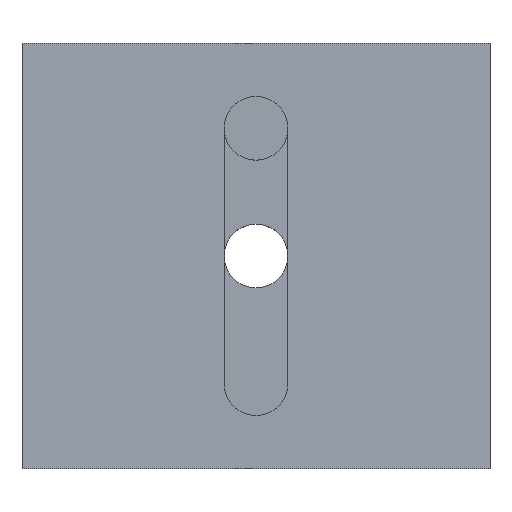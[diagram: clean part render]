
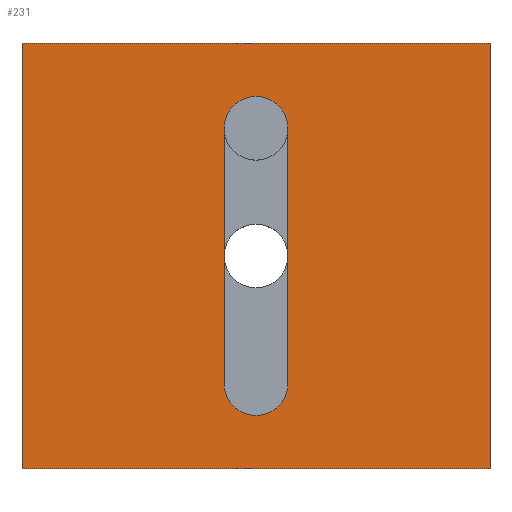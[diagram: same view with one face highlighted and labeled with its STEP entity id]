
A CAD part, top view. The second image highlights one B-rep face of the part: STEP entity #231.
In plain terms, the highlighted planar face has unit normal (0, 0, 1).
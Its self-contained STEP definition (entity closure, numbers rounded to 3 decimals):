
#30 = EDGE_CURVE ( 'NONE', #520, #630, #127, .T. ) ;
#35 = EDGE_CURVE ( 'NONE', #579, #520, #573, .T. ) ;
#38 = EDGE_CURVE ( 'NONE', #358, #531, #330, .T. ) ;
#48 = EDGE_CURVE ( 'NONE', #487, #358, #440, .T. ) ;
#52 = EDGE_CURVE ( 'NONE', #466, #487, #637, .T. ) ;
#59 = EDGE_CURVE ( 'NONE', #438, #579, #137, .T. ) ;
#61 = EDGE_CURVE ( 'NONE', #630, #438, #403, .T. ) ;
#69 = EDGE_CURVE ( 'NONE', #531, #466, #492, .T. ) ;
#84 = ORIENTED_EDGE ( 'NONE', *, *, #35, .F. ) ;
#92 = ORIENTED_EDGE ( 'NONE', *, *, #69, .T. ) ;
#103 = VECTOR ( 'NONE', #363, 1000. ) ;
#117 = AXIS2_PLACEMENT_3D ( 'NONE', #423, #657, #619 ) ;
#123 = AXIS2_PLACEMENT_3D ( 'NONE', #469, #321, #635 ) ;
#127 = CIRCLE ( 'NONE', #117, 7.5 ) ;
#129 = VECTOR ( 'NONE', #679, 1000. ) ;
#136 = VECTOR ( 'NONE', #629, 1000. ) ;
#137 = CIRCLE ( 'NONE', #123, 7.5 ) ;
#143 = VECTOR ( 'NONE', #488, 1000. ) ;
#155 = AXIS2_PLACEMENT_3D ( 'NONE', #468, #357, #568 ) ;
#165 = VECTOR ( 'NONE', #547, 1000. ) ;
#185 = VECTOR ( 'NONE', #540, 1000. ) ;
#231 = ADVANCED_FACE ( 'NONE', ( #434, #355 ), #443, .F. ) ;
#253 = ORIENTED_EDGE ( 'NONE', *, *, #30, .F. ) ;
#282 = ORIENTED_EDGE ( 'NONE', *, *, #38, .T. ) ;
#287 = ORIENTED_EDGE ( 'NONE', *, *, #59, .F. ) ;
#291 = ORIENTED_EDGE ( 'NONE', *, *, #61, .F. ) ;
#293 = ORIENTED_EDGE ( 'NONE', *, *, #48, .T. ) ;
#299 = EDGE_LOOP ( 'NONE', ( #282, #92, #505, #293 ) ) ;
#321 = DIRECTION ( 'NONE',  ( 0., 0., 1. ) ) ;
#328 = CARTESIAN_POINT ( 'NONE',  ( 0., 0., 8. ) ) ;
#330 = LINE ( 'NONE', #328, #165 ) ;
#350 = CARTESIAN_POINT ( 'NONE',  ( 110., 0., 8. ) ) ;
#355 = FACE_BOUND ( 'NONE', #523, .T. ) ;
#357 = DIRECTION ( 'NONE',  ( 0., 0., -1. ) ) ;
#358 = VERTEX_POINT ( 'NONE', #631 ) ;
#363 = DIRECTION ( 'NONE',  ( 0., 1., 0. ) ) ;
#403 = LINE ( 'NONE', #670, #136 ) ;
#423 = CARTESIAN_POINT ( 'NONE',  ( 55., 20., 8. ) ) ;
#434 = FACE_OUTER_BOUND ( 'NONE', #299, .T. ) ;
#438 = VERTEX_POINT ( 'NONE', #602 ) ;
#440 = LINE ( 'NONE', #651, #129 ) ;
#443 = PLANE ( 'NONE',  #155 ) ;
#466 = VERTEX_POINT ( 'NONE', #564 ) ;
#468 = CARTESIAN_POINT ( 'NONE',  ( 0., 100., 8. ) ) ;
#469 = CARTESIAN_POINT ( 'NONE',  ( 55., 80., 8. ) ) ;
#473 = CARTESIAN_POINT ( 'NONE',  ( 110., 100., 8. ) ) ;
#487 = VERTEX_POINT ( 'NONE', #473 ) ;
#488 = DIRECTION ( 'NONE',  ( 1., 0., 0. ) ) ;
#492 = LINE ( 'NONE', #658, #143 ) ;
#493 = CARTESIAN_POINT ( 'NONE',  ( 47.5, 20., 8. ) ) ;
#504 = CARTESIAN_POINT ( 'NONE',  ( 47.5, 80., 8. ) ) ;
#505 = ORIENTED_EDGE ( 'NONE', *, *, #52, .T. ) ;
#508 = CARTESIAN_POINT ( 'NONE',  ( 0., 0., 8. ) ) ;
#520 = VERTEX_POINT ( 'NONE', #493 ) ;
#523 = EDGE_LOOP ( 'NONE', ( #287, #291, #253, #84 ) ) ;
#531 = VERTEX_POINT ( 'NONE', #508 ) ;
#540 = DIRECTION ( 'NONE',  ( 0., -1., 0. ) ) ;
#547 = DIRECTION ( 'NONE',  ( 0., -1., 0. ) ) ;
#564 = CARTESIAN_POINT ( 'NONE',  ( 110., 0., 8. ) ) ;
#568 = DIRECTION ( 'NONE',  ( -1., 0., 0. ) ) ;
#573 = LINE ( 'NONE', #668, #185 ) ;
#579 = VERTEX_POINT ( 'NONE', #504 ) ;
#602 = CARTESIAN_POINT ( 'NONE',  ( 62.5, 80., 8. ) ) ;
#619 = DIRECTION ( 'NONE',  ( 1., 0., 0. ) ) ;
#622 = CARTESIAN_POINT ( 'NONE',  ( 62.5, 20., 8. ) ) ;
#629 = DIRECTION ( 'NONE',  ( 0., 1., 0. ) ) ;
#630 = VERTEX_POINT ( 'NONE', #622 ) ;
#631 = CARTESIAN_POINT ( 'NONE',  ( 0., 100., 8. ) ) ;
#635 = DIRECTION ( 'NONE',  ( 1., 0., 0. ) ) ;
#637 = LINE ( 'NONE', #350, #103 ) ;
#651 = CARTESIAN_POINT ( 'NONE',  ( 0., 100., 8. ) ) ;
#657 = DIRECTION ( 'NONE',  ( 0., 0., 1. ) ) ;
#658 = CARTESIAN_POINT ( 'NONE',  ( 0., 0., 8. ) ) ;
#668 = CARTESIAN_POINT ( 'NONE',  ( 47.5, 80., 8. ) ) ;
#670 = CARTESIAN_POINT ( 'NONE',  ( 62.5, 80., 8. ) ) ;
#679 = DIRECTION ( 'NONE',  ( -1., 0., 0. ) ) ;
